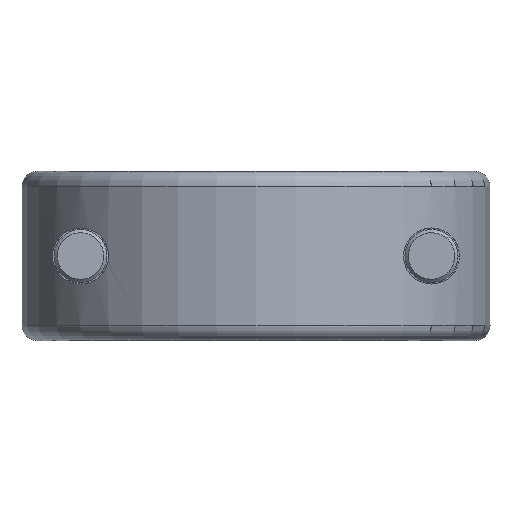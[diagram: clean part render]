
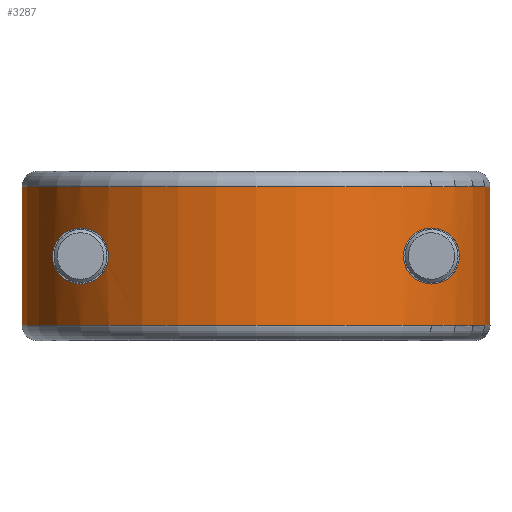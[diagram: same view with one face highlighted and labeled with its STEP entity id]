
A CAD part, front view. The second image highlights one B-rep face of the part: STEP entity #3287.
In plain terms, the highlighted cylindrical face has radius 18 mm (diameter 36 mm), a partial arc.
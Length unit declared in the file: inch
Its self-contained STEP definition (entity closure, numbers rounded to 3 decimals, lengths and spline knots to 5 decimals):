
#2647=CARTESIAN_POINT('',(0.70797,-0.0313,
0.04605));
#2799=CARTESIAN_POINT('',(0.,0.,0.46575));
#2800=DIRECTION('',(0.,0.,1.));
#2801=DIRECTION('',(-0.999,-0.044,0.));
#2802=AXIS2_PLACEMENT_3D('',#2799,#2800,#2801);
#2804=DIRECTION('',(0.,0.,-1.));
#2805=VECTOR('',#2804,0.4197);
#2806=CARTESIAN_POINT('',(0.70797,-0.0313,
0.46576));
#2807=LINE('',#2806,#2805);
#2808=CARTESIAN_POINT('',(0.,0.,0.04606));
#2809=DIRECTION('',(0.,0.,-1.));
#2810=DIRECTION('',(0.999,-0.044,0.));
#2811=AXIS2_PLACEMENT_3D('',#2808,#2809,#2810);
#2813=DIRECTION('',(0.,0.,1.));
#2814=VECTOR('',#2813,0.4197);
#2815=CARTESIAN_POINT('',(-0.70797,-0.0313,
0.04605));
#2816=LINE('',#2815,#2814);
#2817=CARTESIAN_POINT('',(-0.531,-0.4693,0.34066));
#2818=CARTESIAN_POINT('',(-0.52392,-0.47731,0.34066));
#2819=CARTESIAN_POINT('',(-0.51024,-0.49206,
0.33891));
#2820=CARTESIAN_POINT('',(-0.49131,-0.5109,
0.33167));
#2821=CARTESIAN_POINT('',(-0.47511,-0.52592,
0.32057));
#2822=CARTESIAN_POINT('',(-0.46236,-0.53711,
0.30673));
#2823=CARTESIAN_POINT('',(-0.45343,-0.54464,
0.29144));
#2824=CARTESIAN_POINT('',(-0.44806,-0.54904,
0.27565));
#2825=CARTESIAN_POINT('',(-0.44582,-0.55086,
0.25957));
#2826=CARTESIAN_POINT('',(-0.44666,-0.55018,
0.24358));
#2827=CARTESIAN_POINT('',(-0.45042,-0.54711,
0.22812));
#2828=CARTESIAN_POINT('',(-0.45705,-0.54161,
0.21344));
#2829=CARTESIAN_POINT('',(-0.46656,-0.53347,
0.20005));
#2830=CARTESIAN_POINT('',(-0.4788,-0.52256,
0.1884));
#2831=CARTESIAN_POINT('',(-0.49379,-0.50847,
0.17906));
#2832=CARTESIAN_POINT('',(-0.51123,-0.491,
0.17277));
#2833=CARTESIAN_POINT('',(-0.52422,-0.47697,
0.17116));
#2834=CARTESIAN_POINT('',(-0.531,-0.4693,0.17116));
#2836=CARTESIAN_POINT('',(0.531,-0.4693,0.17116));
#2837=CARTESIAN_POINT('',(0.52399,-0.47723,
0.17116));
#2838=CARTESIAN_POINT('',(0.51055,-0.49172,
0.17283));
#2839=CARTESIAN_POINT('',(0.49246,-0.50977,
0.17955));
#2840=CARTESIAN_POINT('',(0.47708,-0.52413,
0.18972));
#2841=CARTESIAN_POINT('',(0.4647,-0.53509,
0.20223));
#2842=CARTESIAN_POINT('',(0.45539,-0.54301,
0.21642));
#2843=CARTESIAN_POINT('',(0.44925,-0.54807,
0.23174));
#2844=CARTESIAN_POINT('',(0.44611,-0.55063,
0.24783));
#2845=CARTESIAN_POINT('',(0.44615,-0.55059,
0.26428));
#2846=CARTESIAN_POINT('',(0.44935,-0.548,
0.28036));
#2847=CARTESIAN_POINT('',(0.45552,-0.54289,
0.29566));
#2848=CARTESIAN_POINT('',(0.46487,-0.53494,
0.30978));
#2849=CARTESIAN_POINT('',(0.47723,-0.524,
0.32221));
#2850=CARTESIAN_POINT('',(0.49256,-0.50967,
0.33231));
#2851=CARTESIAN_POINT('',(0.51059,-0.49168,
0.33899));
#2852=CARTESIAN_POINT('',(0.524,-0.47722,0.34066));
#2853=CARTESIAN_POINT('',(0.531,-0.4693,0.34066));
#2855=CARTESIAN_POINT('',(0.531,-0.4693,0.34066));
#2856=CARTESIAN_POINT('',(0.53826,-0.46108,0.34066));
#2857=CARTESIAN_POINT('',(0.55158,-0.44525,
0.33884));
#2858=CARTESIAN_POINT('',(0.56833,-0.42358,
0.33264));
#2859=CARTESIAN_POINT('',(0.58211,-0.40436,
0.3241));
#2860=CARTESIAN_POINT('',(0.59321,-0.38782,
0.31407));
#2861=CARTESIAN_POINT('',(0.602,-0.37399,
0.30291));
#2862=CARTESIAN_POINT('',(0.6087,-0.36295,
0.29067));
#2863=CARTESIAN_POINT('',(0.61331,-0.35505,
0.27752));
#2864=CARTESIAN_POINT('',(0.61593,-0.35047,
0.26273));
#2865=CARTESIAN_POINT('',(0.61577,-0.35076,
0.24749));
#2866=CARTESIAN_POINT('',(0.61299,-0.35562,
0.2331));
#2867=CARTESIAN_POINT('',(0.60832,-0.36357,
0.22039));
#2868=CARTESIAN_POINT('',(0.6017,-0.37446,
0.20847));
#2869=CARTESIAN_POINT('',(0.59295,-0.38822,
0.19748));
#2870=CARTESIAN_POINT('',(0.58185,-0.40473,
0.18752));
#2871=CARTESIAN_POINT('',(0.56807,-0.42392,
0.17905));
#2872=CARTESIAN_POINT('',(0.55137,-0.4455,
0.17293));
#2873=CARTESIAN_POINT('',(0.53817,-0.46118,
0.17116));
#2874=CARTESIAN_POINT('',(0.531,-0.4693,0.17116));
#2910=CARTESIAN_POINT('',(-0.531,-0.4693,0.34066));
#2911=CARTESIAN_POINT('',(-0.53823,-0.46112,0.34066));
#2912=CARTESIAN_POINT('',(-0.55158,-0.4452,
0.33883));
#2913=CARTESIAN_POINT('',(-0.56828,-0.42354,
0.33264));
#2914=CARTESIAN_POINT('',(-0.58211,-0.40437,
0.3241));
#2915=CARTESIAN_POINT('',(-0.59318,-0.38787,
0.31409));
#2916=CARTESIAN_POINT('',(-0.60192,-0.37408,
0.303));
#2917=CARTESIAN_POINT('',(-0.6086,-0.36313,
0.29087));
#2918=CARTESIAN_POINT('',(-0.61326,-0.35522,
0.2779));
#2919=CARTESIAN_POINT('',(-0.61588,-0.35056,
0.26326));
#2920=CARTESIAN_POINT('',(-0.61583,-0.35066,
0.24806));
#2921=CARTESIAN_POINT('',(-0.61316,-0.3554,
0.23359));
#2922=CARTESIAN_POINT('',(-0.60852,-0.36325,
0.22078));
#2923=CARTESIAN_POINT('',(-0.60189,-0.37413,
0.20878));
#2924=CARTESIAN_POINT('',(-0.59317,-0.38786,
0.19771));
#2925=CARTESIAN_POINT('',(-0.58209,-0.4044,
0.18769));
#2926=CARTESIAN_POINT('',(-0.56824,-0.4236,
0.17915));
#2927=CARTESIAN_POINT('',(-0.55151,-0.44527,
0.17296));
#2928=CARTESIAN_POINT('',(-0.5382,-0.46115,
0.17116));
#2929=CARTESIAN_POINT('',(-0.531,-0.4693,0.17116));
#2970=CARTESIAN_POINT('',(-0.531,-0.4693,0.17116));
#2972=VERTEX_POINT('',#2970);
#2974=VERTEX_POINT('',#2910);
#2977=VERTEX_POINT('',#2836);
#2978=VERTEX_POINT('',#2853);
#2979=CARTESIAN_POINT('',(-0.70797,-0.0313,
0.46575));
#2980=CARTESIAN_POINT('',(0.70797,-0.0313,
0.46575));
#2981=VERTEX_POINT('',#2979);
#2982=VERTEX_POINT('',#2980);
#2987=CARTESIAN_POINT('',(-0.70797,-0.0313,
0.04605));
#2988=VERTEX_POINT('',#2987);
#3027=VERTEX_POINT('',#2647);
#3263=CARTESIAN_POINT('',(0.,0.,0.04606));
#3264=DIRECTION('',(0.,0.,-1.));
#3265=DIRECTION('',(-1.,0.,0.));
#3266=AXIS2_PLACEMENT_3D('',#3263,#3264,#3265);
#3267=CYLINDRICAL_SURFACE('',#3266,0.70866);
#3268=ORIENTED_EDGE('',*,*,#3248,.T.);
#3269=ORIENTED_EDGE('',*,*,#3107,.T.);
#3271=ORIENTED_EDGE('',*,*,#3270,.T.);
#3272=ORIENTED_EDGE('',*,*,#3204,.T.);
#3273=EDGE_LOOP('',(#3268,#3269,#3271,#3272));
#3274=FACE_OUTER_BOUND('',#3273,.F.);
#3276=ORIENTED_EDGE('',*,*,#3275,.T.);
#3278=ORIENTED_EDGE('',*,*,#3277,.F.);
#3279=EDGE_LOOP('',(#3276,#3278));
#3280=FACE_BOUND('',#3279,.F.);
#3282=ORIENTED_EDGE('',*,*,#3281,.F.);
#3284=ORIENTED_EDGE('',*,*,#3283,.F.);
#3285=EDGE_LOOP('',(#3282,#3284));
#3286=FACE_BOUND('',#3285,.F.);
#2803=CIRCLE('',#2802,0.70866);
#2812=CIRCLE('',#2811,0.70866);
#2835=B_SPLINE_CURVE_WITH_KNOTS('',3,(#2817,#2818,#2819,#2820,#2821,#2822,#2823,
#2824,#2825,#2826,#2827,#2828,#2829,#2830,#2831,#2832,#2833,#2834),
.UNSPECIFIED.,.F.,.F.,(4,1,1,1,1,1,1,1,1,1,1,1,1,1,1,4),(0.,0.06667,
0.13333,0.2,0.26667,0.33333,0.4,
0.46667,0.53333,0.6,0.66667,0.73333,
0.8,0.86667,0.93333,1.),.UNSPECIFIED.);
#2854=B_SPLINE_CURVE_WITH_KNOTS('',3,(#2836,#2837,#2838,#2839,#2840,#2841,#2842,
#2843,#2844,#2845,#2846,#2847,#2848,#2849,#2850,#2851,#2852,#2853),
.UNSPECIFIED.,.F.,.F.,(4,1,1,1,1,1,1,1,1,1,1,1,1,1,1,4),(0.,0.06667,
0.13333,0.2,0.26667,0.33333,0.4,
0.46667,0.53333,0.6,0.66667,0.73333,
0.8,0.86667,0.93333,1.),.UNSPECIFIED.);
#2875=B_SPLINE_CURVE_WITH_KNOTS('',3,(#2855,#2856,#2857,#2858,#2859,#2860,#2861,
#2862,#2863,#2864,#2865,#2866,#2867,#2868,#2869,#2870,#2871,#2872,#2873,#2874),
.UNSPECIFIED.,.F.,.F.,(4,1,1,1,1,1,1,1,1,1,1,1,1,1,1,1,1,4),(0.,
0.05882,0.11765,0.17647,0.23529,
0.29412,0.35294,0.41176,0.47059,
0.52941,0.58824,0.64706,0.70588,
0.76471,0.82353,0.88235,0.94118,1.),
.UNSPECIFIED.);
#2930=B_SPLINE_CURVE_WITH_KNOTS('',3,(#2910,#2911,#2912,#2913,#2914,#2915,#2916,
#2917,#2918,#2919,#2920,#2921,#2922,#2923,#2924,#2925,#2926,#2927,#2928,#2929),
.UNSPECIFIED.,.F.,.F.,(4,1,1,1,1,1,1,1,1,1,1,1,1,1,1,1,1,4),(0.,
0.05882,0.11765,0.17647,0.23529,
0.29412,0.35294,0.41176,0.47059,
0.52941,0.58824,0.64706,0.70588,
0.76471,0.82353,0.88235,0.94118,1.),
.UNSPECIFIED.);
#3107=EDGE_CURVE('',#2982,#3027,#2807,.T.);
#3204=EDGE_CURVE('',#2988,#2981,#2816,.T.);
#3248=EDGE_CURVE('',#2981,#2982,#2803,.T.);
#3270=EDGE_CURVE('',#3027,#2988,#2812,.T.);
#3275=EDGE_CURVE('',#2974,#2972,#2930,.T.);
#3277=EDGE_CURVE('',#2974,#2972,#2835,.T.);
#3281=EDGE_CURVE('',#2977,#2978,#2854,.T.);
#3283=EDGE_CURVE('',#2978,#2977,#2875,.T.);
#3287=ADVANCED_FACE('',(#3274,#3280,#3286),#3267,.T.);
